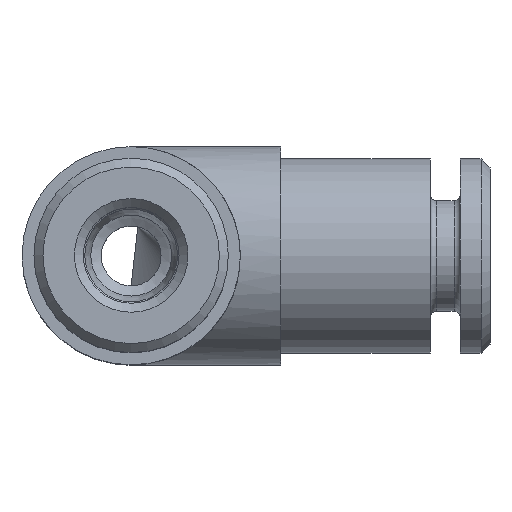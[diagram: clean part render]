
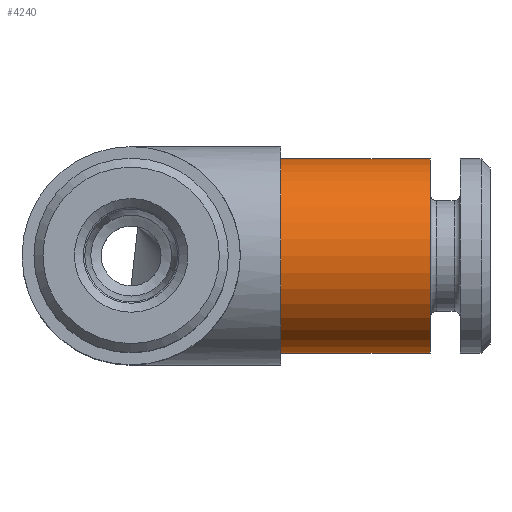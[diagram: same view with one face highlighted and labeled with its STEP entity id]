
A CAD part, top view. The second image highlights one B-rep face of the part: STEP entity #4240.
In plain terms, the highlighted cylindrical face has radius 3.25 mm (diameter 6.5 mm), a full revolution.
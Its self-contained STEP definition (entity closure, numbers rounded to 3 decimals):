
#4240=ADVANCED_FACE('', (#4250,#4260), #4270, .T.);
#11510=AXIS2_PLACEMENT_3D('Ax2Pl3d', #11520, #11530, #11540);
#13030=AXIS2_PLACEMENT_3D('Ax2Pl3d', #13040, #13050, #13060);
#13070=AXIS2_PLACEMENT_3D('Ax2Pl3d', #13080, #13090, #13100);
#11520=CARTESIAN_POINT('HicPkt', (17.046,7.506,
15.974));
#14280=CARTESIAN_POINT('', (17.046,7.506,19.224));
#13040=CARTESIAN_POINT('HicPkt', (12.046,7.506,
15.974));
#14480=CARTESIAN_POINT('', (12.046,7.506,19.224));
#13080=CARTESIAN_POINT('HicPkt', (17.046,7.506,
15.974));
#15350=CIRCLE('Circle', #11510, 3.25);
#15530=CIRCLE('Circle', #13030, 3.25);
#4270=CYLINDRICAL_SURFACE('Zyl', #13070, 3.25);
#11530=DIRECTION('Axis', (1.,0.,0.));
#11540=DIRECTION('RefDirection', (0.,0.,-1.));
#13050=DIRECTION('Axis', (1.,0.,0.));
#13060=DIRECTION('RefDirection', (0.,0.,-1.));
#13090=DIRECTION('Axis', (-1.,0.,
0.));
#13100=DIRECTION('RefDirection', (0.,
0.,-1.));
#20770=EDGE_CURVE('', #20780, #20780, #15350, .T.);
#21190=EDGE_CURVE('', #21200, #21200, #15530, .T.);
#25370=EDGE_LOOP('Edge_loop', (#25380));
#25390=EDGE_LOOP('Edge_loop', (#25400));
#4260=FACE_BOUND('', #25390, .T.);
#4250=FACE_OUTER_BOUND('Face_outer_bound', #25370, .T.);
#25380=ORIENTED_EDGE('', *, *, #21190, .T.);
#25400=ORIENTED_EDGE('', *, *, #20770, .F.);
#20780=VERTEX_POINT('', #14280);
#21200=VERTEX_POINT('', #14480);
